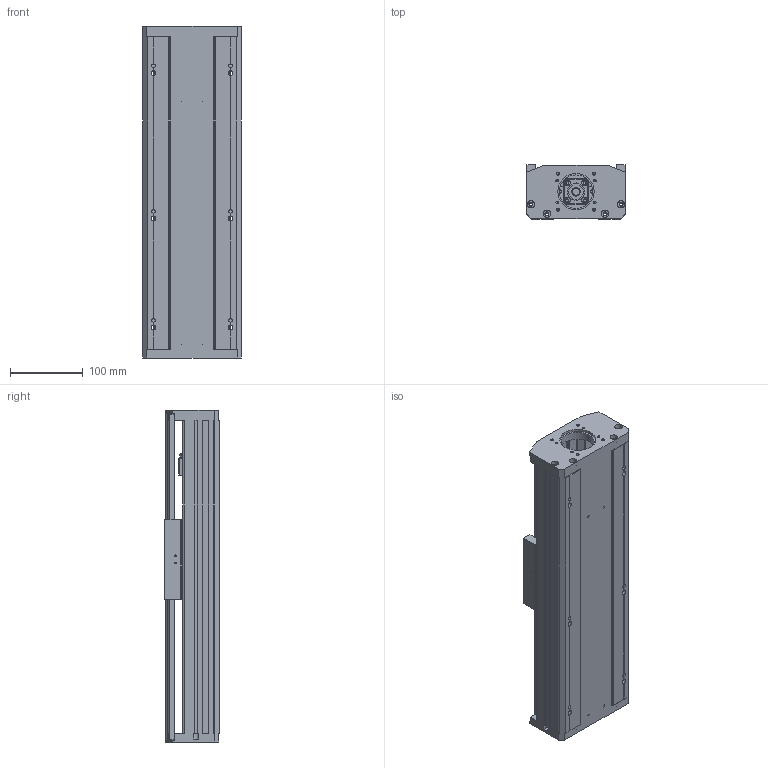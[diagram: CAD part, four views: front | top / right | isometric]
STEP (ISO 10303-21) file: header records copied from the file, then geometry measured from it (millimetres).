
FILE_DESCRIPTION(/* description */ (''),/* implementation_level */ '2;1');
FILE_NAME(/* name */ 'TKA136-F0-200_asm1_stp.stp',/* time_stamp */ '2016-09-08T15:08:52+08:00',/* author */ (''),/* organization */ (''),/* preprocessor_version */ 'ST-DEVELOPER v15',/* originating_system */ 'SIEMENS PLM Software NX 8.5',/* authorisation */ '');
FILE_SCHEMA (('AUTOMOTIVE_DESIGN { 1 0 10303 214 3 1 1 1 }'));
Length unit declared in the file: millimetre
Products named in the file (3): 200-02; 200-01; TKA136-F0-200_asm1_stp
Assembly tree (2 placements, depth 2):
  TKA136-F0-200_asm1_stp
    200-01
    200-02
Bounding box: 136 x 75 x 457 mm (x, y, z)
Volume: 1693821.3 mm3; surface area: 595991.1 mm2
Topology: 2 solids, 12 shells, 781 faces, 2115 edges, 1372 vertices
Faces by surface type: plane 379, cylinder 348, cone 54
Full cylindrical faces by diameter (mm): 2.5 x4, 3 x2, 3.3 x12, 4 x4, 4.2 x10, 4.5 x20, 5 x10, 5.5 x26, 6.6 x10, 8 x20, 10 x9, 10.5 x6, 11 x4, 11.6 x1, 12 x9, 15 x3, 16 x5, 17 x1, 24 x5, 26 x1, 28 x1, 46 x1, 50 x1
Entity records: 25414 total; most frequent: CARTESIAN_POINT 6622, DIRECTION 3917, ORIENTED_EDGE 3596, EDGE_CURVE 1798, AXIS2_PLACEMENT_3D 1487, VERTEX_POINT 1300, EDGE_LOOP 1136, LINE 943
